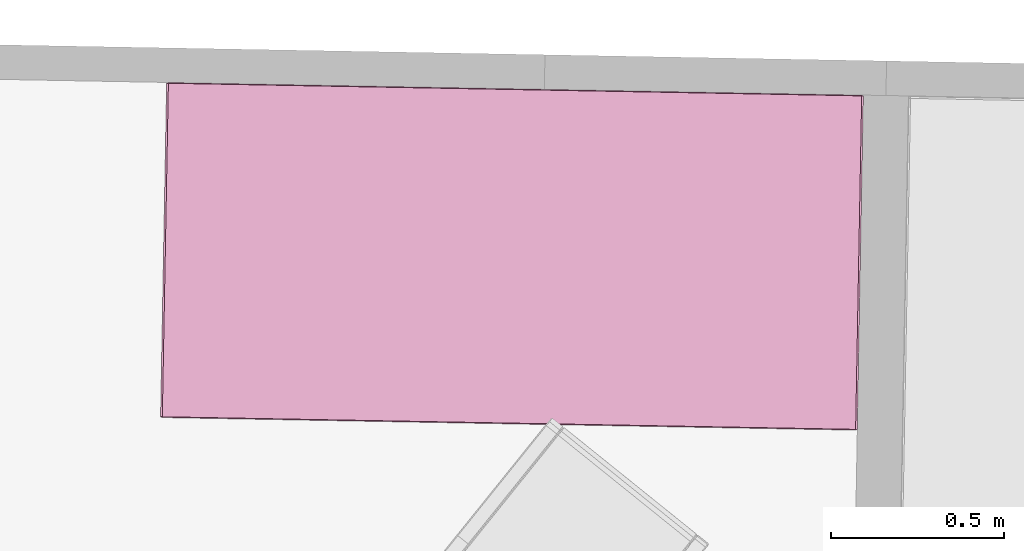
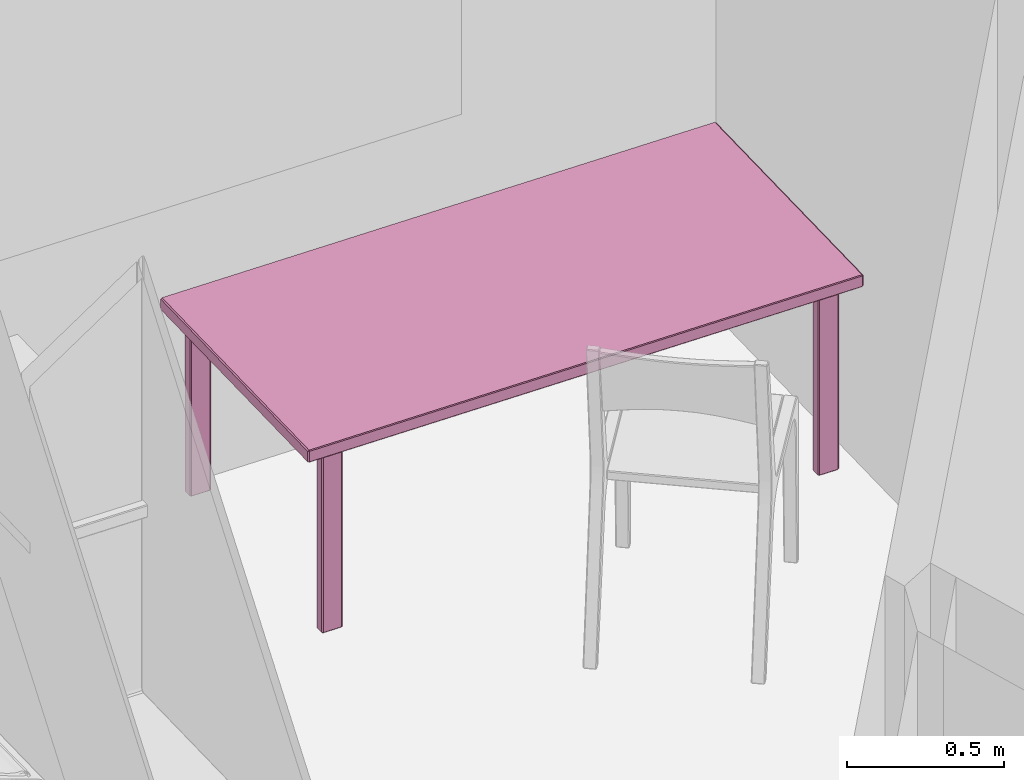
# One storey, part 5 of 9: 1 furnishing.
"""IFC2X3 building model written with IfcOpenShell, lengths in metres."""

from ifc_helpers import new_model, si_unit, frame, origin_with_axes, place, context, project, spatial, faceted_brep, type_object, element, save


model = new_model("IFC2X3")

# Units and contexts
model_context = context("Model", 3, precision=1e-05, world=origin_with_axes())
ifc_project = project(units=[si_unit("AREAUNIT", "SQUARE_METRE"), si_unit("LENGTHUNIT", "METRE")], contexts=[model_context])

# Site, building, storey, space
site_placement = place(None, origin_with_axes())
site = spatial("IfcSite", under=ifc_project, at=site_placement, Name="Site", CompositionType="ELEMENT")
building_placement = place(site_placement, origin_with_axes())
building = spatial("IfcBuilding", under=site, at=building_placement, Name="Building", CompositionType="ELEMENT")
storey_placement = place(building_placement, frame((0.0, 0.0, 5.74363407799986), z_axis=(0.0, 0.0, 1.0), x_axis=(1.0, 0.0, 0.0)))
storey = spatial("IfcBuildingStorey", under=building, at=storey_placement, Name="Story 2", CompositionType="ELEMENT", Elevation=5.7436338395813)
space_placement = place(storey_placement, frame((-4.35630304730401, -0.849079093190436, 0.0), z_axis=(0.0, 0.0, 1.0), x_axis=(1.0, 0.0, 0.0)))
space = spatial("IfcSpace", under=storey, at=space_placement, Name="015", CompositionType="ELEMENT", InteriorOrExteriorSpace="INTERNAL")

# Furnishing
furniture_type = type_object("IfcFurnitureType", Name="8e0bab29-1186-4157-956a-7d90d5485eff")
furnishing_placement = place(space_placement, frame((2.10317976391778, 2.93545695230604, 0.37710824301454), z_axis=(0.0, 0.0, 1.00000001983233), x_axis=(-0.0181993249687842, -0.999834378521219, 0.0)))
element("IfcFurnishingElement", 1, at=furnishing_placement, inside=space, type_object=furniture_type, Name="Table", ObjectType="Table", context=model_context, shape_type="Brep", body=[
    faceted_brep([(0.4829, 1.0091, 0.3334), (-0.4829, 1.0091, 0.3334), (0.4829, 1.0091, 0.3738), (-0.4829, 1.0091, 0.3738), (0.4829, 1.0091, 0.3738), (-0.4829, 1.0091, 0.3334), (0.414, -0.9343, 0.3418), (0.414, -0.8681, 0.3418), (0.414, -0.9343, -0.3738), (0.414, -0.8681, -0.3738), (0.414, -0.9343, -0.3738), (0.414, -0.8681, 0.3418), (0.4482, -0.9394, 0.3418), (0.4164, -0.9394, 0.3418), (0.4482, -0.9394, -0.3738), (0.4164, -0.9394, -0.3738), (0.4482, -0.9394, -0.3738), (0.4164, -0.9394, 0.3418), (0.4506, -0.8681, 0.3418), (0.4506, -0.9343, 0.3418), (0.4506, -0.8681, -0.3738), (0.4506, -0.9343, -0.3738), (0.4506, -0.8681, -0.3738), (0.4506, -0.9343, 0.3418), (0.4164, -0.8631, 0.3418), (0.4482, -0.8631, 0.3418), (0.4164, -0.8631, -0.3738), (0.4482, -0.8631, -0.3738), (0.4164, -0.8631, -0.3738), (0.4482, -0.8631, 0.3418), (0.414, 0.9343, 0.3418), (0.414, 0.9343, -0.3738), (0.414, 0.8681, 0.3418), (0.414, 0.8681, -0.3738), (0.414, 0.8681, 0.3418), (0.414, 0.9343, -0.3738), (0.4482, 0.9394, 0.3418), (0.4482, 0.9394, -0.3738), (0.4164, 0.9394, 0.3418), (0.4164, 0.9394, -0.3738), (0.4164, 0.9394, 0.3418), (0.4482, 0.9394, -0.3738), (0.4506, 0.8681, 0.3418), (0.4506, 0.8681, -0.3738), (0.4506, 0.9343, 0.3418), (0.4506, 0.9343, -0.3738), (0.4506, 0.9343, 0.3418), (0.4506, 0.8681, -0.3738), (0.4164, 0.8631, 0.3418), (0.4164, 0.8631, -0.3738), (0.4482, 0.8631, 0.3418), (0.4482, 0.8631, -0.3738), (0.4482, 0.8631, 0.3418), (0.4164, 0.8631, -0.3738), (0.4853, 1.004, 0.3334), (0.4853, 1.004, 0.3738), (0.4853, -1.004, 0.3334), (0.4853, -1.004, 0.3738), (0.4853, -1.004, 0.3334), (0.4853, 1.004, 0.3738), (-0.4853, 1.004, 0.3738), (-0.4853, 1.004, 0.3334), (-0.4853, -1.004, 0.3738), (-0.4853, -1.004, 0.3334), (-0.4853, -1.004, 0.3738), (-0.4853, 1.004, 0.3334), (-0.414, -0.9343, 0.3418), (-0.414, -0.9343, -0.3738), (-0.414, -0.8681, 0.3418), (-0.414, -0.8681, -0.3738), (-0.414, -0.8681, 0.3418), (-0.414, -0.9343, -0.3738), (-0.4482, -0.9394, 0.3418), (-0.4482, -0.9394, -0.3738), (-0.4164, -0.9394, 0.3418), (-0.4164, -0.9394, -0.3738), (-0.4164, -0.9394, 0.3418), (-0.4482, -0.9394, -0.3738), (-0.4506, -0.8681, 0.3418), (-0.4506, -0.8681, -0.3738), (-0.4506, -0.9343, 0.3418), (-0.4506, -0.9343, -0.3738), (-0.4506, -0.9343, 0.3418), (-0.4506, -0.8681, -0.3738), (-0.4164, -0.8631, 0.3418), (-0.4164, -0.8631, -0.3738), (-0.4482, -0.8631, 0.3418), (-0.4482, -0.8631, -0.3738), (-0.4482, -0.8631, 0.3418), (-0.4164, -0.8631, -0.3738), (-0.414, 0.9343, 0.3418), (-0.414, 0.8681, 0.3418), (-0.414, 0.9343, -0.3738), (-0.414, 0.8681, -0.3738), (-0.414, 0.9343, -0.3738), (-0.414, 0.8681, 0.3418), (-0.4482, 0.9394, 0.3418), (-0.4164, 0.9394, 0.3418), (-0.4482, 0.9394, -0.3738), (-0.4164, 0.9394, -0.3738), (-0.4482, 0.9394, -0.3738), (-0.4164, 0.9394, 0.3418), (-0.4506, 0.8681, 0.3418), (-0.4506, 0.9343, 0.3418), (-0.4506, 0.8681, -0.3738), (-0.4506, 0.9343, -0.3738), (-0.4506, 0.8681, -0.3738), (-0.4506, 0.9343, 0.3418), (-0.4164, 0.8631, 0.3418), (-0.4482, 0.8631, 0.3418), (-0.4164, 0.8631, -0.3738), (-0.4482, 0.8631, -0.3738), (-0.4164, 0.8631, -0.3738), (-0.4482, 0.8631, 0.3418), (-0.4829, 1.004, 0.3771), (-0.4829, -1.004, 0.3771), (0.4829, 1.004, 0.3771), (0.4829, -1.004, 0.3771), (0.4829, 1.004, 0.3771), (-0.4829, -1.004, 0.3771), (0.4829, -1.0091, 0.3334), (0.4829, -1.0091, 0.3738), (-0.4829, -1.0091, 0.3334), (-0.4829, -1.0091, 0.3738), (-0.4829, -1.0091, 0.3334), (0.4829, -1.0091, 0.3738), (0.4829, -1.004, 0.33), (-0.4829, -1.004, 0.33), (0.4829, 1.004, 0.33), (-0.4829, 1.004, 0.33), (0.4829, 1.004, 0.33), (-0.4829, -1.004, 0.33), (0.4482, -0.9343, 0.3452), (0.4482, -0.8681, 0.3452), (0.4164, -0.9343, 0.3452), (0.4164, -0.8681, 0.3452), (0.4164, -0.9343, 0.3452), (0.4482, -0.8681, 0.3452), (0.4482, -0.8681, -0.3771), (0.4482, -0.9343, -0.3771), (0.4164, -0.8681, -0.3771), (0.4164, -0.9343, -0.3771), (0.4164, -0.8681, -0.3771), (0.4482, -0.9343, -0.3771), (0.4482, 0.9343, -0.3771), (0.4482, 0.8681, -0.3771), (0.4164, 0.9343, -0.3771), (0.4164, 0.8681, -0.3771), (0.4164, 0.9343, -0.3771), (0.4482, 0.8681, -0.3771), (0.4482, 0.8681, 0.3452), (0.4482, 0.9343, 0.3452), (0.4164, 0.8681, 0.3452), (0.4164, 0.9343, 0.3452), (0.4164, 0.8681, 0.3452), (0.4482, 0.9343, 0.3452), (-0.4482, -0.9343, -0.3771), (-0.4482, -0.8681, -0.3771), (-0.4164, -0.9343, -0.3771), (-0.4164, -0.8681, -0.3771), (-0.4164, -0.9343, -0.3771), (-0.4482, -0.8681, -0.3771), (-0.4482, -0.8681, 0.3452), (-0.4482, -0.9343, 0.3452), (-0.4164, -0.8681, 0.3452), (-0.4164, -0.9343, 0.3452), (-0.4164, -0.8681, 0.3452), (-0.4482, -0.9343, 0.3452), (-0.4482, 0.9343, 0.3452), (-0.4482, 0.8681, 0.3452), (-0.4164, 0.9343, 0.3452), (-0.4164, 0.8681, 0.3452), (-0.4164, 0.9343, 0.3452), (-0.4482, 0.8681, 0.3452), (-0.4482, 0.8681, -0.3771), (-0.4482, 0.9343, -0.3771), (-0.4164, 0.8681, -0.3771), (-0.4164, 0.9343, -0.3771), (-0.4164, 0.8681, -0.3771), (-0.4482, 0.9343, -0.3771), (-0.4829, 1.004, 0.3771), (-0.4829, 1.0091, 0.3738), (-0.4853, 1.004, 0.3738), (0.4164, -0.8681, -0.3771), (0.414, -0.8681, -0.3738), (0.4164, -0.8631, -0.3738), (0.4164, -0.9343, -0.3771), (0.4164, -0.9394, -0.3738), (0.414, -0.9343, -0.3738), (0.4482, -0.9343, -0.3771), (0.4506, -0.9343, -0.3738), (0.4482, -0.9394, -0.3738), (0.4482, -0.8681, -0.3771), (0.4482, -0.8631, -0.3738), (0.4506, -0.8681, -0.3738), (0.4164, -0.8681, 0.3452), (0.4164, -0.8631, 0.3418), (0.414, -0.8681, 0.3418), (0.4164, 0.8631, -0.3738), (0.414, 0.8681, -0.3738), (0.4164, 0.8681, -0.3771), (0.4164, 0.9343, 0.3452), (0.4164, 0.9394, 0.3418), (0.414, 0.9343, 0.3418), (0.4482, 0.9343, 0.3452), (0.4506, 0.9343, 0.3418), (0.4482, 0.9394, 0.3418), (0.4482, 0.8681, 0.3452), (0.4482, 0.8631, 0.3418), (0.4506, 0.8681, 0.3418), (0.4829, -1.0091, 0.3738), (0.4853, -1.004, 0.3738), (0.4829, -1.004, 0.3771), (0.4829, 1.004, 0.3771), (0.4853, 1.004, 0.3738), (0.4829, 1.0091, 0.3738), (-0.4829, -1.0091, 0.3334), (-0.4853, -1.004, 0.3334), (-0.4829, -1.004, 0.33), (-0.4829, 1.004, 0.33), (-0.4853, 1.004, 0.3334), (-0.4829, 1.0091, 0.3334), (-0.4164, -0.8631, -0.3738), (-0.414, -0.8681, -0.3738), (-0.4164, -0.8681, -0.3771), (-0.4164, -0.9343, 0.3452), (-0.4164, -0.9394, 0.3418), (-0.414, -0.9343, 0.3418), (-0.4482, -0.9343, 0.3452), (-0.4506, -0.9343, 0.3418), (-0.4482, -0.9394, 0.3418), (-0.4482, -0.8681, 0.3452), (-0.4482, -0.8631, 0.3418), (-0.4506, -0.8681, 0.3418), (-0.4164, 0.8681, -0.3771), (-0.414, 0.8681, -0.3738), (-0.4164, 0.8631, -0.3738), (-0.4164, 0.9343, -0.3771), (-0.4164, 0.9394, -0.3738), (-0.414, 0.9343, -0.3738), (-0.4482, 0.9343, -0.3771), (-0.4506, 0.9343, -0.3738), (-0.4482, 0.9394, -0.3738), (-0.4482, 0.8681, -0.3771), (-0.4482, 0.8631, -0.3738), (-0.4506, 0.8681, -0.3738), (-0.4164, 0.8681, 0.3452), (-0.4164, 0.8631, 0.3418), (-0.414, 0.8681, 0.3418), (-0.4829, -1.0091, 0.3738), (-0.4829, -1.004, 0.3771), (-0.4853, -1.004, 0.3738), (0.4829, -1.0091, 0.3334), (0.4829, -1.004, 0.33), (0.4853, -1.004, 0.3334), (0.4853, 1.004, 0.3334), (0.4829, 1.004, 0.33), (0.4829, 1.0091, 0.3334), (0.4482, -0.8631, 0.3418), (0.4482, -0.8681, 0.3452), (0.4506, -0.8681, 0.3418), (0.4506, -0.9343, 0.3418), (0.4482, -0.9343, 0.3452), (0.4482, -0.9394, 0.3418), (0.4164, -0.9394, 0.3418), (0.4164, -0.9343, 0.3452), (0.414, -0.9343, 0.3418), (0.4482, 0.8631, -0.3738), (0.4482, 0.8681, -0.3771), (0.4506, 0.8681, -0.3738), (0.4506, 0.9343, -0.3738), (0.4482, 0.9343, -0.3771), (0.4482, 0.9394, -0.3738), (0.4164, 0.9394, -0.3738), (0.4164, 0.9343, -0.3771), (0.414, 0.9343, -0.3738), (0.4164, 0.8631, 0.3418), (0.4164, 0.8681, 0.3452), (0.414, 0.8681, 0.3418), (-0.4482, -0.8631, -0.3738), (-0.4482, -0.8681, -0.3771), (-0.4506, -0.8681, -0.3738), (-0.4506, -0.9343, -0.3738), (-0.4482, -0.9343, -0.3771), (-0.4482, -0.9394, -0.3738), (-0.4164, -0.9394, -0.3738), (-0.4164, -0.9343, -0.3771), (-0.414, -0.9343, -0.3738), (-0.4164, -0.8631, 0.3418), (-0.4164, -0.8681, 0.3452), (-0.414, -0.8681, 0.3418), (-0.4482, 0.8631, 0.3418), (-0.4482, 0.8681, 0.3452), (-0.4506, 0.8681, 0.3418), (-0.4506, 0.9343, 0.3418), (-0.4482, 0.9343, 0.3452), (-0.4482, 0.9394, 0.3418), (-0.4164, 0.9394, 0.3418), (-0.4164, 0.9343, 0.3452), (-0.414, 0.9343, 0.3418), (-0.4829, 1.0091, 0.3738), (-0.4829, 1.0091, 0.3334), (-0.4853, 1.004, 0.3738), (-0.4853, 1.004, 0.3334), (-0.4853, 1.004, 0.3738), (-0.4829, 1.0091, 0.3334), (-0.4829, 1.0091, 0.3334), (0.4829, 1.0091, 0.3334), (-0.4829, 1.004, 0.33), (0.4829, 1.004, 0.33), (-0.4829, 1.004, 0.33), (0.4829, 1.0091, 0.3334), (0.4829, 1.0091, 0.3334), (0.4829, 1.0091, 0.3738), (0.4853, 1.004, 0.3334), (0.4853, 1.004, 0.3738), (0.4853, 1.004, 0.3334), (0.4829, 1.0091, 0.3738), (0.4829, 1.0091, 0.3738), (-0.4829, 1.0091, 0.3738), (0.4829, 1.004, 0.3771), (-0.4829, 1.004, 0.3771), (0.4829, 1.004, 0.3771), (-0.4829, 1.0091, 0.3738), (0.414, -0.8681, -0.3738), (0.414, -0.8681, 0.3418), (0.4164, -0.8631, -0.3738), (0.4164, -0.8631, 0.3418), (0.4164, -0.8631, -0.3738), (0.414, -0.8681, 0.3418), (0.414, -0.8681, 0.3418), (0.414, -0.9343, 0.3418), (0.4164, -0.8681, 0.3452), (0.4164, -0.9343, 0.3452), (0.4164, -0.8681, 0.3452), (0.414, -0.9343, 0.3418), (0.414, -0.9343, 0.3418), (0.414, -0.9343, -0.3738), (0.4164, -0.9394, 0.3418), (0.4164, -0.9394, -0.3738), (0.4164, -0.9394, 0.3418), (0.414, -0.9343, -0.3738), (0.414, -0.9343, -0.3738), (0.414, -0.8681, -0.3738), (0.4164, -0.9343, -0.3771), (0.4164, -0.8681, -0.3771), (0.4164, -0.9343, -0.3771), (0.414, -0.8681, -0.3738), (0.4164, -0.9394, 0.3418), (0.4482, -0.9394, 0.3418), (0.4164, -0.9343, 0.3452), (0.4482, -0.9343, 0.3452), (0.4164, -0.9343, 0.3452), (0.4482, -0.9394, 0.3418), (0.4482, -0.9394, 0.3418), (0.4482, -0.9394, -0.3738), (0.4506, -0.9343, 0.3418), (0.4506, -0.9343, -0.3738), (0.4506, -0.9343, 0.3418), (0.4482, -0.9394, -0.3738), (0.4482, -0.9394, -0.3738), (0.4164, -0.9394, -0.3738), (0.4482, -0.9343, -0.3771), (0.4164, -0.9343, -0.3771), (0.4482, -0.9343, -0.3771), (0.4164, -0.9394, -0.3738), (0.4506, -0.9343, 0.3418), (0.4506, -0.8681, 0.3418), (0.4482, -0.9343, 0.3452), (0.4482, -0.8681, 0.3452), (0.4482, -0.9343, 0.3452), (0.4506, -0.8681, 0.3418), (0.4506, -0.8681, 0.3418), (0.4506, -0.8681, -0.3738), (0.4482, -0.8631, 0.3418), (0.4482, -0.8631, -0.3738), (0.4482, -0.8631, 0.3418), (0.4506, -0.8681, -0.3738), (0.4506, -0.8681, -0.3738), (0.4506, -0.9343, -0.3738), (0.4482, -0.8681, -0.3771), (0.4482, -0.9343, -0.3771), (0.4482, -0.8681, -0.3771), (0.4506, -0.9343, -0.3738), (0.4482, -0.8631, 0.3418), (0.4164, -0.8631, 0.3418), (0.4482, -0.8681, 0.3452), (0.4164, -0.8681, 0.3452), (0.4482, -0.8681, 0.3452), (0.4164, -0.8631, 0.3418), (0.4164, -0.8631, -0.3738), (0.4482, -0.8631, -0.3738), (0.4164, -0.8681, -0.3771), (0.4482, -0.8681, -0.3771), (0.4164, -0.8681, -0.3771), (0.4482, -0.8631, -0.3738), (0.414, 0.8681, -0.3738), (0.414, 0.9343, -0.3738), (0.4164, 0.8681, -0.3771), (0.4164, 0.9343, -0.3771), (0.4164, 0.8681, -0.3771), (0.414, 0.9343, -0.3738), (0.414, 0.9343, -0.3738), (0.414, 0.9343, 0.3418), (0.4164, 0.9394, -0.3738), (0.4164, 0.9394, 0.3418), (0.4164, 0.9394, -0.3738), (0.414, 0.9343, 0.3418), (0.414, 0.9343, 0.3418), (0.414, 0.8681, 0.3418), (0.4164, 0.9343, 0.3452), (0.4164, 0.8681, 0.3452), (0.4164, 0.9343, 0.3452), (0.414, 0.8681, 0.3418), (0.414, 0.8681, 0.3418), (0.414, 0.8681, -0.3738), (0.4164, 0.8631, 0.3418), (0.4164, 0.8631, -0.3738), (0.4164, 0.8631, 0.3418), (0.414, 0.8681, -0.3738), (0.4164, 0.9394, -0.3738), (0.4482, 0.9394, -0.3738), (0.4164, 0.9343, -0.3771), (0.4482, 0.9343, -0.3771), (0.4164, 0.9343, -0.3771), (0.4482, 0.9394, -0.3738), (0.4482, 0.9394, -0.3738), (0.4482, 0.9394, 0.3418), (0.4506, 0.9343, -0.3738), (0.4506, 0.9343, 0.3418), (0.4506, 0.9343, -0.3738), (0.4482, 0.9394, 0.3418), (0.4482, 0.9394, 0.3418), (0.4164, 0.9394, 0.3418), (0.4482, 0.9343, 0.3452), (0.4164, 0.9343, 0.3452), (0.4482, 0.9343, 0.3452), (0.4164, 0.9394, 0.3418), (0.4506, 0.9343, -0.3738), (0.4506, 0.8681, -0.3738), (0.4482, 0.9343, -0.3771), (0.4482, 0.8681, -0.3771), (0.4482, 0.9343, -0.3771), (0.4506, 0.8681, -0.3738), (0.4506, 0.8681, -0.3738), (0.4506, 0.8681, 0.3418), (0.4482, 0.8631, -0.3738), (0.4482, 0.8631, 0.3418), (0.4482, 0.8631, -0.3738), (0.4506, 0.8681, 0.3418), (0.4506, 0.8681, 0.3418), (0.4506, 0.9343, 0.3418), (0.4482, 0.8681, 0.3452), (0.4482, 0.9343, 0.3452), (0.4482, 0.8681, 0.3452), (0.4506, 0.9343, 0.3418), (0.4482, 0.8631, -0.3738), (0.4164, 0.8631, -0.3738), (0.4482, 0.8681, -0.3771), (0.4164, 0.8681, -0.3771), (0.4482, 0.8681, -0.3771), (0.4164, 0.8631, -0.3738), (0.4164, 0.8631, 0.3418), (0.4482, 0.8631, 0.3418), (0.4164, 0.8681, 0.3452), (0.4482, 0.8681, 0.3452), (0.4164, 0.8681, 0.3452), (0.4482, 0.8631, 0.3418), (0.4853, -1.004, 0.3738), (0.4853, 1.004, 0.3738), (0.4829, -1.004, 0.3771), (0.4829, 1.004, 0.3771), (0.4829, -1.004, 0.3771), (0.4853, 1.004, 0.3738), (0.4853, 1.004, 0.3334), (0.4853, -1.004, 0.3334), (0.4829, 1.004, 0.33), (0.4829, -1.004, 0.33), (0.4829, 1.004, 0.33), (0.4853, -1.004, 0.3334), (0.4853, -1.004, 0.3334), (0.4853, -1.004, 0.3738), (0.4829, -1.0091, 0.3334), (0.4829, -1.0091, 0.3738), (0.4829, -1.0091, 0.3334), (0.4853, -1.004, 0.3738), (-0.4853, -1.004, 0.3334), (-0.4853, 1.004, 0.3334), (-0.4829, -1.004, 0.33), (-0.4829, 1.004, 0.33), (-0.4829, -1.004, 0.33), (-0.4853, 1.004, 0.3334), (-0.4853, 1.004, 0.3738), (-0.4853, -1.004, 0.3738), (-0.4829, 1.004, 0.3771), (-0.4829, -1.004, 0.3771), (-0.4829, 1.004, 0.3771), (-0.4853, -1.004, 0.3738), (-0.4853, -1.004, 0.3738), (-0.4853, -1.004, 0.3334), (-0.4829, -1.0091, 0.3738), (-0.4829, -1.0091, 0.3334), (-0.4829, -1.0091, 0.3738), (-0.4853, -1.004, 0.3334), (-0.414, -0.8681, -0.3738), (-0.414, -0.9343, -0.3738), (-0.4164, -0.8681, -0.3771), (-0.4164, -0.9343, -0.3771), (-0.4164, -0.8681, -0.3771), (-0.414, -0.9343, -0.3738), (-0.414, -0.9343, -0.3738), (-0.414, -0.9343, 0.3418), (-0.4164, -0.9394, -0.3738), (-0.4164, -0.9394, 0.3418), (-0.4164, -0.9394, -0.3738), (-0.414, -0.9343, 0.3418), (-0.414, -0.9343, 0.3418), (-0.414, -0.8681, 0.3418), (-0.4164, -0.9343, 0.3452), (-0.4164, -0.8681, 0.3452), (-0.4164, -0.9343, 0.3452), (-0.414, -0.8681, 0.3418), (-0.414, -0.8681, 0.3418), (-0.414, -0.8681, -0.3738), (-0.4164, -0.8631, 0.3418), (-0.4164, -0.8631, -0.3738), (-0.4164, -0.8631, 0.3418), (-0.414, -0.8681, -0.3738), (-0.4164, -0.9394, -0.3738), (-0.4482, -0.9394, -0.3738), (-0.4164, -0.9343, -0.3771), (-0.4482, -0.9343, -0.3771), (-0.4164, -0.9343, -0.3771), (-0.4482, -0.9394, -0.3738), (-0.4482, -0.9394, -0.3738), (-0.4482, -0.9394, 0.3418), (-0.4506, -0.9343, -0.3738), (-0.4506, -0.9343, 0.3418), (-0.4506, -0.9343, -0.3738), (-0.4482, -0.9394, 0.3418), (-0.4482, -0.9394, 0.3418), (-0.4164, -0.9394, 0.3418), (-0.4482, -0.9343, 0.3452), (-0.4164, -0.9343, 0.3452), (-0.4482, -0.9343, 0.3452), (-0.4164, -0.9394, 0.3418), (-0.4506, -0.9343, -0.3738), (-0.4506, -0.8681, -0.3738), (-0.4482, -0.9343, -0.3771), (-0.4482, -0.8681, -0.3771), (-0.4482, -0.9343, -0.3771), (-0.4506, -0.8681, -0.3738), (-0.4506, -0.8681, -0.3738), (-0.4506, -0.8681, 0.3418), (-0.4482, -0.8631, -0.3738), (-0.4482, -0.8631, 0.3418), (-0.4482, -0.8631, -0.3738), (-0.4506, -0.8681, 0.3418), (-0.4506, -0.8681, 0.3418), (-0.4506, -0.9343, 0.3418), (-0.4482, -0.8681, 0.3452), (-0.4482, -0.9343, 0.3452), (-0.4482, -0.8681, 0.3452), (-0.4506, -0.9343, 0.3418), (-0.4482, -0.8631, -0.3738), (-0.4164, -0.8631, -0.3738), (-0.4482, -0.8681, -0.3771), (-0.4164, -0.8681, -0.3771), (-0.4482, -0.8681, -0.3771), (-0.4164, -0.8631, -0.3738), (-0.4164, -0.8631, 0.3418), (-0.4482, -0.8631, 0.3418), (-0.4164, -0.8681, 0.3452), (-0.4482, -0.8681, 0.3452), (-0.4164, -0.8681, 0.3452), (-0.4482, -0.8631, 0.3418), (-0.414, 0.8681, -0.3738), (-0.414, 0.8681, 0.3418), (-0.4164, 0.8631, -0.3738), (-0.4164, 0.8631, 0.3418), (-0.4164, 0.8631, -0.3738), (-0.414, 0.8681, 0.3418), (-0.414, 0.8681, 0.3418), (-0.414, 0.9343, 0.3418), (-0.4164, 0.8681, 0.3452), (-0.4164, 0.9343, 0.3452), (-0.4164, 0.8681, 0.3452), (-0.414, 0.9343, 0.3418), (-0.414, 0.9343, 0.3418), (-0.414, 0.9343, -0.3738), (-0.4164, 0.9394, 0.3418), (-0.4164, 0.9394, -0.3738), (-0.4164, 0.9394, 0.3418), (-0.414, 0.9343, -0.3738), (-0.414, 0.9343, -0.3738), (-0.414, 0.8681, -0.3738), (-0.4164, 0.9343, -0.3771), (-0.4164, 0.8681, -0.3771), (-0.4164, 0.9343, -0.3771), (-0.414, 0.8681, -0.3738), (-0.4164, 0.9394, 0.3418), (-0.4482, 0.9394, 0.3418), (-0.4164, 0.9343, 0.3452), (-0.4482, 0.9343, 0.3452), (-0.4164, 0.9343, 0.3452), (-0.4482, 0.9394, 0.3418), (-0.4482, 0.9394, 0.3418), (-0.4482, 0.9394, -0.3738), (-0.4506, 0.9343, 0.3418), (-0.4506, 0.9343, -0.3738), (-0.4506, 0.9343, 0.3418), (-0.4482, 0.9394, -0.3738), (-0.4482, 0.9394, -0.3738), (-0.4164, 0.9394, -0.3738), (-0.4482, 0.9343, -0.3771), (-0.4164, 0.9343, -0.3771), (-0.4482, 0.9343, -0.3771), (-0.4164, 0.9394, -0.3738), (-0.4506, 0.9343, 0.3418), (-0.4506, 0.8681, 0.3418), (-0.4482, 0.9343, 0.3452), (-0.4482, 0.8681, 0.3452), (-0.4482, 0.9343, 0.3452), (-0.4506, 0.8681, 0.3418), (-0.4506, 0.8681, 0.3418), (-0.4506, 0.8681, -0.3738), (-0.4482, 0.8631, 0.3418), (-0.4482, 0.8631, -0.3738), (-0.4482, 0.8631, 0.3418), (-0.4506, 0.8681, -0.3738), (-0.4506, 0.8681, -0.3738), (-0.4506, 0.9343, -0.3738), (-0.4482, 0.8681, -0.3771), (-0.4482, 0.9343, -0.3771), (-0.4482, 0.8681, -0.3771), (-0.4506, 0.9343, -0.3738), (-0.4482, 0.8631, 0.3418), (-0.4164, 0.8631, 0.3418), (-0.4482, 0.8681, 0.3452), (-0.4164, 0.8681, 0.3452), (-0.4482, 0.8681, 0.3452), (-0.4164, 0.8631, 0.3418), (-0.4164, 0.8631, -0.3738), (-0.4482, 0.8631, -0.3738), (-0.4164, 0.8681, -0.3771), (-0.4482, 0.8681, -0.3771), (-0.4164, 0.8681, -0.3771), (-0.4482, 0.8631, -0.3738), (0.4829, -1.004, 0.3771), (-0.4829, -1.004, 0.3771), (0.4829, -1.0091, 0.3738), (-0.4829, -1.0091, 0.3738), (0.4829, -1.0091, 0.3738), (-0.4829, -1.004, 0.3771), (0.4829, -1.0091, 0.3334), (-0.4829, -1.0091, 0.3334), (0.4829, -1.004, 0.33), (-0.4829, -1.004, 0.33), (0.4829, -1.004, 0.33), (-0.4829, -1.0091, 0.3334)], [[[0, 1, 2]], [[3, 4, 5]], [[6, 7, 8]], [[9, 10, 11]], [[12, 13, 14]], [[15, 16, 17]], [[18, 19, 20]], [[21, 22, 23]], [[24, 25, 26]], [[27, 28, 29]], [[30, 31, 32]], [[33, 34, 35]], [[36, 37, 38]], [[39, 40, 41]], [[42, 43, 44]], [[45, 46, 47]], [[48, 49, 50]], [[51, 52, 53]], [[54, 55, 56]], [[57, 58, 59]], [[60, 61, 62]], [[63, 64, 65]], [[66, 67, 68]], [[69, 70, 71]], [[72, 73, 74]], [[75, 76, 77]], [[78, 79, 80]], [[81, 82, 83]], [[84, 85, 86]], [[87, 88, 89]], [[90, 91, 92]], [[93, 94, 95]], [[96, 97, 98]], [[99, 100, 101]], [[102, 103, 104]], [[105, 106, 107]], [[108, 109, 110]], [[111, 112, 113]], [[114, 115, 116]], [[117, 118, 119]], [[120, 121, 122]], [[123, 124, 125]], [[126, 127, 128]], [[129, 130, 131]], [[132, 133, 134]], [[135, 136, 137]], [[138, 139, 140]], [[141, 142, 143]], [[144, 145, 146]], [[147, 148, 149]], [[150, 151, 152]], [[153, 154, 155]], [[156, 157, 158]], [[159, 160, 161]], [[162, 163, 164]], [[165, 166, 167]], [[168, 169, 170]], [[171, 172, 173]], [[174, 175, 176]], [[177, 178, 179]], [[180, 181, 182]], [[183, 184, 185]], [[186, 187, 188]], [[189, 190, 191]], [[192, 193, 194]], [[195, 196, 197]], [[198, 199, 200]], [[201, 202, 203]], [[204, 205, 206]], [[207, 208, 209]], [[210, 211, 212]], [[213, 214, 215]], [[216, 217, 218]], [[219, 220, 221]], [[222, 223, 224]], [[225, 226, 227]], [[228, 229, 230]], [[231, 232, 233]], [[234, 235, 236]], [[237, 238, 239]], [[240, 241, 242]], [[243, 244, 245]], [[246, 247, 248]], [[249, 250, 251]], [[252, 253, 254]], [[255, 256, 257]], [[258, 259, 260]], [[261, 262, 263]], [[264, 265, 266]], [[267, 268, 269]], [[270, 271, 272]], [[273, 274, 275]], [[276, 277, 278]], [[279, 280, 281]], [[282, 283, 284]], [[285, 286, 287]], [[288, 289, 290]], [[291, 292, 293]], [[294, 295, 296]], [[297, 298, 299]], [[300, 301, 302]], [[303, 304, 305]], [[306, 307, 308]], [[309, 310, 311]], [[312, 313, 314]], [[315, 316, 317]], [[318, 319, 320]], [[321, 322, 323]], [[324, 325, 326]], [[327, 328, 329]], [[330, 331, 332]], [[333, 334, 335]], [[336, 337, 338]], [[339, 340, 341]], [[342, 343, 344]], [[345, 346, 347]], [[348, 349, 350]], [[351, 352, 353]], [[354, 355, 356]], [[357, 358, 359]], [[360, 361, 362]], [[363, 364, 365]], [[366, 367, 368]], [[369, 370, 371]], [[372, 373, 374]], [[375, 376, 377]], [[378, 379, 380]], [[381, 382, 383]], [[384, 385, 386]], [[387, 388, 389]], [[390, 391, 392]], [[393, 394, 395]], [[396, 397, 398]], [[399, 400, 401]], [[402, 403, 404]], [[405, 406, 407]], [[408, 409, 410]], [[411, 412, 413]], [[414, 415, 416]], [[417, 418, 419]], [[420, 421, 422]], [[423, 424, 425]], [[426, 427, 428]], [[429, 430, 431]], [[432, 433, 434]], [[435, 436, 437]], [[438, 439, 440]], [[441, 442, 443]], [[444, 445, 446]], [[447, 448, 449]], [[450, 451, 452]], [[453, 454, 455]], [[456, 457, 458]], [[459, 460, 461]], [[462, 463, 464]], [[465, 466, 467]], [[468, 469, 470]], [[471, 472, 473]], [[474, 475, 476]], [[477, 478, 479]], [[480, 481, 482]], [[483, 484, 485]], [[486, 487, 488]], [[489, 490, 491]], [[492, 493, 494]], [[495, 496, 497]], [[498, 499, 500]], [[501, 502, 503]], [[504, 505, 506]], [[507, 508, 509]], [[510, 511, 512]], [[513, 514, 515]], [[516, 517, 518]], [[519, 520, 521]], [[522, 523, 524]], [[525, 526, 527]], [[528, 529, 530]], [[531, 532, 533]], [[534, 535, 536]], [[537, 538, 539]], [[540, 541, 542]], [[543, 544, 545]], [[546, 547, 548]], [[549, 550, 551]], [[552, 553, 554]], [[555, 556, 557]], [[558, 559, 560]], [[561, 562, 563]], [[564, 565, 566]], [[567, 568, 569]], [[570, 571, 572]], [[573, 574, 575]], [[576, 577, 578]], [[579, 580, 581]], [[582, 583, 584]], [[585, 586, 587]], [[588, 589, 590]], [[591, 592, 593]], [[594, 595, 596]], [[597, 598, 599]], [[600, 601, 602]], [[603, 604, 605]], [[606, 607, 608]], [[609, 610, 611]], [[612, 613, 614]], [[615, 616, 617]], [[618, 619, 620]], [[621, 622, 623]], [[624, 625, 626]], [[627, 628, 629]], [[630, 631, 632]], [[633, 634, 635]], [[636, 637, 638]], [[639, 640, 641]], [[642, 643, 644]], [[645, 646, 647]], [[648, 649, 650]], [[651, 652, 653]], [[654, 655, 656]], [[657, 658, 659]]]),
])

save(model, "model.ifc")
